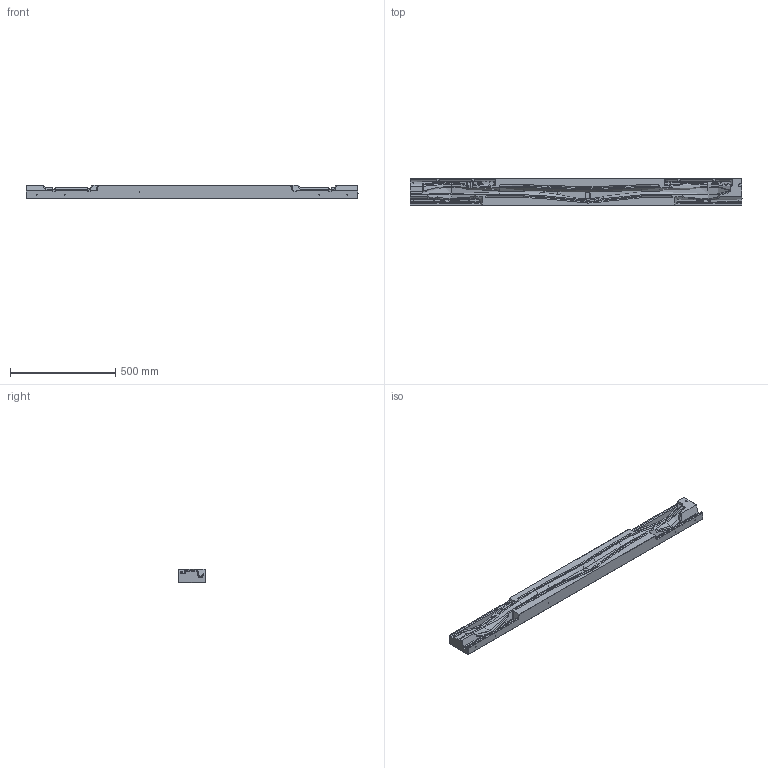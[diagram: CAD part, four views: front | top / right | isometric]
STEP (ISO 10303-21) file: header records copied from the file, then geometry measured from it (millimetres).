
FILE_DESCRIPTION(/* description */ (''),/* implementation_level */ '2;1');
FILE_NAME(/* name */ '2119406-01 Mold Base for Flat Pattern.step',/* time_stamp */ '2026-03-02T09:28:54-08:00',/* author */ (''),/* organization */ (''),/* preprocessor_version */ 'ST-DEVELOPER v20.1',/* originating_system */ 'Autodesk Translation Framework v14.24.0.0',/* authorisation */ '');
FILE_SCHEMA (('AUTOMOTIVE_DESIGN { 1 0 10303 214 3 1 1 }'));
Products named in the file (2): 2119406-01-G01_MOLD_ASM; 2119406-01-G01_MOLD_BASE
Assembly tree (1 placements, depth 2):
  2119406-01-G01_MOLD_ASM
    2119406-01-G01_MOLD_BASE
Bounding box: 1574.8 x 127 x 63.5 mm (x, y, z)
Volume: 9592397.2 mm3; surface area: 660363 mm2
Topology: 1 solids, 1 shells, 512 faces, 1295 edges, 787 vertices
Faces by surface type: bspline 172, plane 163, cylinder 123, cone 27, torus 14, sphere 13
Full cylindrical faces by diameter (mm): 4.267 x1, 5.118 x8
Entity records: 40170 total; most frequent: CARTESIAN_POINT 28897, ORIENTED_EDGE 2570, DIRECTION 1923, EDGE_CURVE 1285, VERTEX_POINT 787, AXIS2_PLACEMENT_3D 655, LINE 613, VECTOR 613
